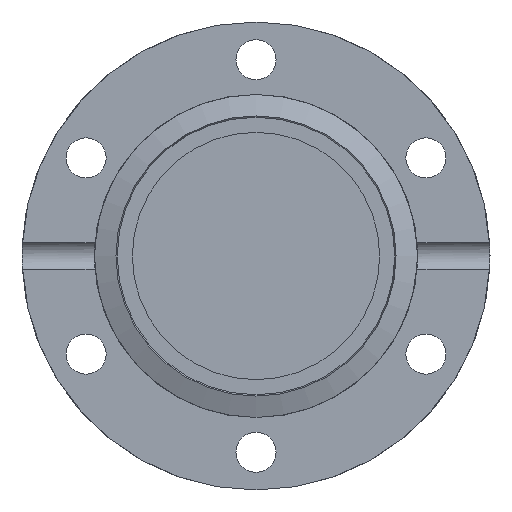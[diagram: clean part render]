
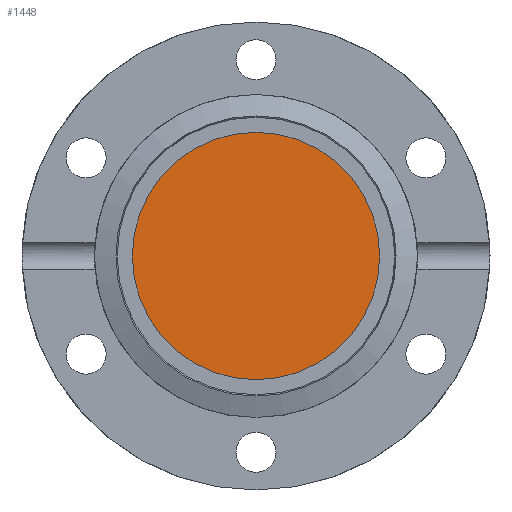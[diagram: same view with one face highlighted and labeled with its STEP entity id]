
A CAD part, left-side view. The second image highlights one B-rep face of the part: STEP entity #1448.
In plain terms, the highlighted planar face has unit normal (-1, 0, 0).
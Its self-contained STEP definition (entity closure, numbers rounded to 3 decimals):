
#1448 = ADVANCED_FACE( '', ( #3268 ), #3269, .F. );
#3268 = FACE_OUTER_BOUND( '', #5061, .T. );
#3269 = PLANE( '', #5062 );
#5061 = EDGE_LOOP( '', ( #7726 ) );
#5062 = AXIS2_PLACEMENT_3D( '', #7727, #7728, #7729 );
#7726 = ORIENTED_EDGE( '', *, *, #8458, .T. );
#7727 = CARTESIAN_POINT( '', ( 0., 0., 26. ) );
#7728 = DIRECTION( '', ( 1., 0., 0. ) );
#7729 = DIRECTION( '', ( 0., 0., -1. ) );
#8458 = EDGE_CURVE( '', #9756, #9756, #9757, .T. );
#9756 = VERTEX_POINT( '', #11222 );
#9757 = CIRCLE( '', #11223, 26. );
#11222 = CARTESIAN_POINT( '', ( 0., 0., 26. ) );
#11223 = AXIS2_PLACEMENT_3D( '', #12706, #12707, #12708 );
#12706 = CARTESIAN_POINT( '', ( 0., 0., 0. ) );
#12707 = DIRECTION( '', ( -1., 0., 0. ) );
#12708 = DIRECTION( '', ( 0., 0., 1. ) );
